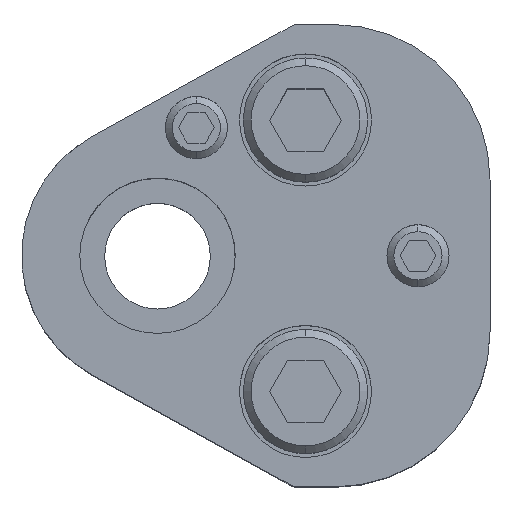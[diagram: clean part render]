
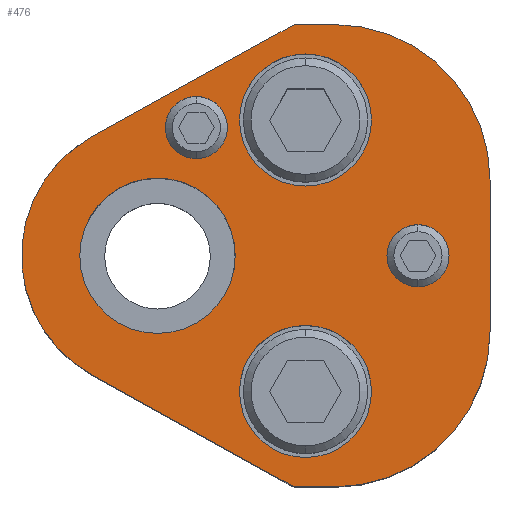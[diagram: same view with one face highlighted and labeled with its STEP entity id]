
A CAD part, top view. The second image highlights one B-rep face of the part: STEP entity #476.
In plain terms, the highlighted planar face has unit normal (0, 0, 1).
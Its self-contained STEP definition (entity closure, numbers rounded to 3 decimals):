
#213=FACE_BOUND('',#843,.T.);
#214=FACE_BOUND('',#844,.T.);
#215=FACE_BOUND('',#845,.T.);
#216=FACE_BOUND('',#846,.T.);
#217=FACE_BOUND('',#847,.T.);
#218=FACE_BOUND('',#848,.T.);
#300=CIRCLE('',#2767,20.);
#302=CIRCLE('',#2771,20.);
#304=CIRCLE('',#2776,4.);
#306=CIRCLE('',#2779,4.);
#308=CIRCLE('',#2782,4.);
#310=CIRCLE('',#2785,4.);
#320=CIRCLE('',#2800,17.5);
#321=CIRCLE('',#2801,8.5);
#322=CIRCLE('',#2802,8.5);
#323=CIRCLE('',#2803,8.5);
#324=CIRCLE('',#2804,8.5);
#325=CIRCLE('',#2805,10.);
#326=CIRCLE('',#2806,10.);
#476=ADVANCED_FACE('',(#213,#214,#215,#216,#217,#218),#592,.T.);
#592=PLANE('',#2807);
#843=EDGE_LOOP('',(#1250,#1251,#1252,#1253,#1254,#1255,#1256,#1257));
#844=EDGE_LOOP('',(#1258,#1259));
#845=EDGE_LOOP('',(#1260,#1261));
#846=EDGE_LOOP('',(#1262,#1263));
#847=EDGE_LOOP('',(#1264,#1265));
#848=EDGE_LOOP('',(#1266,#1267));
#1250=ORIENTED_EDGE('',*,*,#2066,.T.);
#1251=ORIENTED_EDGE('',*,*,#2024,.T.);
#1252=ORIENTED_EDGE('',*,*,#2028,.T.);
#1253=ORIENTED_EDGE('',*,*,#2031,.T.);
#1254=ORIENTED_EDGE('',*,*,#2034,.T.);
#1255=ORIENTED_EDGE('',*,*,#2037,.T.);
#1256=ORIENTED_EDGE('',*,*,#2040,.T.);
#1257=ORIENTED_EDGE('',*,*,#2067,.T.);
#1258=ORIENTED_EDGE('',*,*,#2068,.F.);
#1259=ORIENTED_EDGE('',*,*,#2069,.F.);
#1260=ORIENTED_EDGE('',*,*,#2070,.F.);
#1261=ORIENTED_EDGE('',*,*,#2071,.F.);
#1262=ORIENTED_EDGE('',*,*,#2052,.F.);
#1263=ORIENTED_EDGE('',*,*,#2048,.F.);
#1264=ORIENTED_EDGE('',*,*,#2046,.F.);
#1265=ORIENTED_EDGE('',*,*,#2042,.F.);
#1266=ORIENTED_EDGE('',*,*,#2072,.T.);
#1267=ORIENTED_EDGE('',*,*,#2073,.T.);
#1749=VERTEX_POINT('',#4092);
#1750=VERTEX_POINT('',#4094);
#1753=VERTEX_POINT('',#4101);
#1755=VERTEX_POINT('',#4107);
#1757=VERTEX_POINT('',#4113);
#1759=VERTEX_POINT('',#4119);
#1761=VERTEX_POINT('',#4125);
#1762=VERTEX_POINT('',#4130);
#1763=VERTEX_POINT('',#4131);
#1766=VERTEX_POINT('',#4142);
#1767=VERTEX_POINT('',#4143);
#1778=VERTEX_POINT('',#4178);
#1779=VERTEX_POINT('',#4181);
#1780=VERTEX_POINT('',#4182);
#1781=VERTEX_POINT('',#4185);
#1782=VERTEX_POINT('',#4186);
#1783=VERTEX_POINT('',#4189);
#1784=VERTEX_POINT('',#4190);
#2024=EDGE_CURVE('',#1750,#1749,#2332,.T.);
#2028=EDGE_CURVE('',#1749,#1753,#300,.T.);
#2031=EDGE_CURVE('',#1753,#1755,#2337,.T.);
#2034=EDGE_CURVE('',#1755,#1757,#302,.T.);
#2037=EDGE_CURVE('',#1757,#1759,#2341,.T.);
#2040=EDGE_CURVE('',#1759,#1761,#2344,.T.);
#2042=EDGE_CURVE('',#1762,#1763,#304,.T.);
#2046=EDGE_CURVE('',#1763,#1762,#306,.T.);
#2048=EDGE_CURVE('',#1766,#1767,#308,.T.);
#2052=EDGE_CURVE('',#1767,#1766,#310,.T.);
#2066=EDGE_CURVE('',#1778,#1750,#2354,.T.);
#2067=EDGE_CURVE('',#1761,#1778,#320,.T.);
#2068=EDGE_CURVE('',#1779,#1780,#321,.T.);
#2069=EDGE_CURVE('',#1780,#1779,#322,.T.);
#2070=EDGE_CURVE('',#1781,#1782,#323,.T.);
#2071=EDGE_CURVE('',#1782,#1781,#324,.T.);
#2072=EDGE_CURVE('',#1783,#1784,#325,.T.);
#2073=EDGE_CURVE('',#1784,#1783,#326,.T.);
#2332=LINE('',#4093,#2533);
#2337=LINE('',#4108,#2538);
#2341=LINE('',#4120,#2542);
#2344=LINE('',#4126,#2545);
#2354=LINE('',#4177,#2555);
#2533=VECTOR('',#3243,1.);
#2538=VECTOR('',#3256,1.);
#2542=VECTOR('',#3268,1.);
#2545=VECTOR('',#3273,1.);
#2555=VECTOR('',#3333,1.);
#2767=AXIS2_PLACEMENT_3D('',#4102,#3249,#3250);
#2771=AXIS2_PLACEMENT_3D('',#4114,#3261,#3262);
#2776=AXIS2_PLACEMENT_3D('',#4129,#3277,#3278);
#2779=AXIS2_PLACEMENT_3D('',#4138,#3285,#3286);
#2782=AXIS2_PLACEMENT_3D('',#4141,#3291,#3292);
#2785=AXIS2_PLACEMENT_3D('',#4150,#3299,#3300);
#2800=AXIS2_PLACEMENT_3D('',#4179,#3334,#3335);
#2801=AXIS2_PLACEMENT_3D('',#4180,#3336,#3337);
#2802=AXIS2_PLACEMENT_3D('',#4183,#3338,#3339);
#2803=AXIS2_PLACEMENT_3D('',#4184,#3340,#3341);
#2804=AXIS2_PLACEMENT_3D('',#4187,#3342,#3343);
#2805=AXIS2_PLACEMENT_3D('',#4188,#3344,#3345);
#2806=AXIS2_PLACEMENT_3D('',#4191,#3346,#3347);
#2807=AXIS2_PLACEMENT_3D('',#4192,#3348,#3349);
#3243=DIRECTION('',(1.,0.,0.));
#3249=DIRECTION('',(0.,0.,1.));
#3250=DIRECTION('',(-0.707,0.707,0.));
#3256=DIRECTION('',(0.,1.,0.));
#3261=DIRECTION('',(0.,0.,1.));
#3262=DIRECTION('',(-0.707,-0.707,0.));
#3268=DIRECTION('',(-1.,0.,0.));
#3273=DIRECTION('',(-0.875,-0.485,0.));
#3277=DIRECTION('',(0.,0.,1.));
#3278=DIRECTION('',(-1.,0.,0.));
#3285=DIRECTION('',(0.,0.,1.));
#3286=DIRECTION('',(1.,0.,0.));
#3291=DIRECTION('',(0.,0.,1.));
#3292=DIRECTION('',(-1.,0.,0.));
#3299=DIRECTION('',(0.,0.,1.));
#3300=DIRECTION('',(1.,0.,0.));
#3333=DIRECTION('',(0.875,-0.485,0.));
#3334=DIRECTION('',(0.,0.,1.));
#3335=DIRECTION('',(1.,0.,0.));
#3336=DIRECTION('',(0.,0.,1.));
#3337=DIRECTION('',(1.,0.,0.));
#3338=DIRECTION('',(0.,0.,1.));
#3339=DIRECTION('',(-1.,0.,0.));
#3340=DIRECTION('',(0.,0.,1.));
#3341=DIRECTION('',(1.,0.,0.));
#3342=DIRECTION('',(0.,0.,1.));
#3343=DIRECTION('',(-1.,0.,0.));
#3344=DIRECTION('',(0.,0.,-1.));
#3345=DIRECTION('',(-1.,0.,0.));
#3346=DIRECTION('',(0.,0.,-1.));
#3347=DIRECTION('',(1.,0.,0.));
#3348=DIRECTION('',(0.,0.,1.));
#3349=DIRECTION('',(-0.875,0.485,0.));
#4092=CARTESIAN_POINT('',(22.8,-29.75,37.));
#4093=CARTESIAN_POINT('',(17.574,-29.75,37.));
#4094=CARTESIAN_POINT('',(17.574,-29.75,37.));
#4101=CARTESIAN_POINT('',(42.8,-9.75,37.));
#4102=CARTESIAN_POINT('',(22.8,-9.75,37.));
#4107=CARTESIAN_POINT('',(42.8,9.75,37.));
#4108=CARTESIAN_POINT('',(42.8,9.75,37.));
#4113=CARTESIAN_POINT('',(22.8,29.75,37.));
#4114=CARTESIAN_POINT('',(22.8,9.75,37.));
#4119=CARTESIAN_POINT('',(17.574,29.75,37.));
#4120=CARTESIAN_POINT('',(17.574,29.75,37.));
#4125=CARTESIAN_POINT('',(-8.484,15.306,37.));
#4126=CARTESIAN_POINT('',(17.574,29.75,37.));
#4129=CARTESIAN_POINT('',(5.,16.5,37.));
#4130=CARTESIAN_POINT('',(5.,12.5,37.));
#4131=CARTESIAN_POINT('',(5.,20.5,37.));
#4138=CARTESIAN_POINT('',(5.,16.5,37.));
#4141=CARTESIAN_POINT('',(33.53,0.,37.));
#4142=CARTESIAN_POINT('',(33.53,-4.,37.));
#4143=CARTESIAN_POINT('',(33.53,4.,37.));
#4150=CARTESIAN_POINT('',(33.53,0.,37.));
#4177=CARTESIAN_POINT('',(17.574,-29.75,37.));
#4178=CARTESIAN_POINT('',(-8.484,-15.306,37.));
#4179=CARTESIAN_POINT('',(0.,0.,37.));
#4180=CARTESIAN_POINT('',(19.05,17.47,37.));
#4181=CARTESIAN_POINT('',(19.05,25.97,37.));
#4182=CARTESIAN_POINT('',(19.05,8.97,37.));
#4183=CARTESIAN_POINT('',(19.05,17.47,37.));
#4184=CARTESIAN_POINT('',(19.05,-17.47,37.));
#4185=CARTESIAN_POINT('',(19.05,-8.97,37.));
#4186=CARTESIAN_POINT('',(19.05,-25.97,37.));
#4187=CARTESIAN_POINT('',(19.05,-17.47,37.));
#4188=CARTESIAN_POINT('',(0.,0.,37.));
#4189=CARTESIAN_POINT('',(0.,10.,37.));
#4190=CARTESIAN_POINT('',(0.,-10.,37.));
#4191=CARTESIAN_POINT('',(0.,0.,37.));
#4192=CARTESIAN_POINT('',(-8.484,-15.306,37.));
